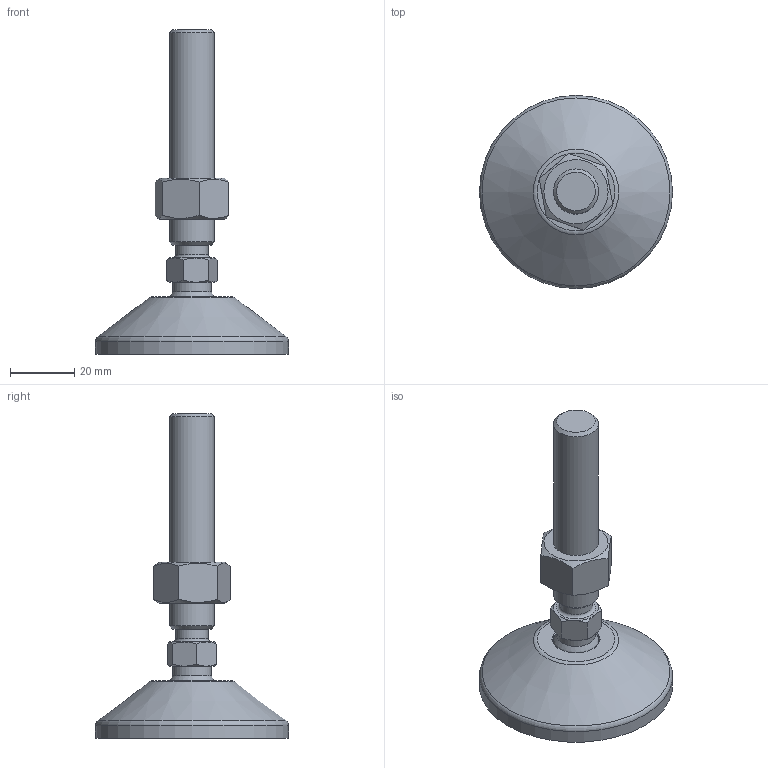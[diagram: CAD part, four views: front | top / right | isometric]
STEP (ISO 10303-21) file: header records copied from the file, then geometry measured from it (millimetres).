
FILE_DESCRIPTION(('STEP AP203'), '1');
FILE_NAME('栖闉罻', '', ('UNSPECIFIED'), ('UNSPECIFIED'), 'C3D Converter', 'C3D Toolkit', '');
FILE_SCHEMA(('CONFIG_CONTROL_DESIGN'));
Length unit declared in the file: millimetre
Products named in the file (4): A00020.114066; A00015.1060
Assembly tree (3 placements, depth 3):
  (unnamed)
    A00020.114066
      (unnamed)
    A00015.1060
Bounding box: 60 x 60 x 100.99 mm (x, y, z)
Volume: 36965.4 mm3; surface area: 16077.3 mm2
Topology: 3 solids, 3 shells, 165 faces, 428 edges, 282 vertices
Faces by surface type: plane 87, cylinder 34, cone 21, torus 21, sphere 2
Full cylindrical faces by diameter (mm): 4 x8, 10.2 x1, 11.835 x1, 12 x1, 14 x1, 14.3 x1, 15 x2, 15.5 x1, 50.5 x1, 60 x1
Entity records: 8739 total; most frequent: CARTESIAN_POINT 3319, DIRECTION 812, ORIENTED_EDGE 786, EDGE_CURVE 393, AXIS2_PLACEMENT_3D 336, VERTEX_POINT 281, EDGE_LOOP 214, FACE_BOUND 174
